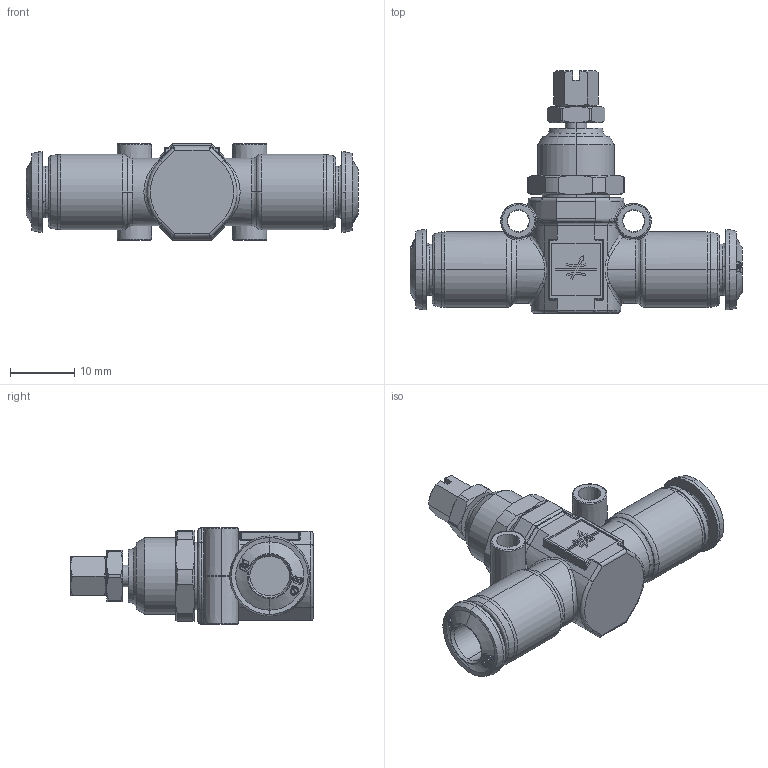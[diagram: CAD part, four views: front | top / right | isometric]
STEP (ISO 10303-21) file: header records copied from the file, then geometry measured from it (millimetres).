
FILE_DESCRIPTION (( 'STEP AP214' ), '1' );
FILE_NAME ('5595500001.STEP', '2013-02-28T14:45:58', ( '' ), ( '' ), 'SwSTEP 2.0', 'SolidWorks 2012', '' );
FILE_SCHEMA (( 'AUTOMOTIVE_DESIGN' ));
Length unit declared in the file: millimetre
Products named in the file (1): 5595500001
Bounding box: 51.8 x 37.86 x 15 mm (x, y, z)
Volume: 8415 mm3; surface area: 4960.9 mm2
Topology: 3 solids, 3 shells, 601 faces, 1465 edges, 878 vertices
Faces by surface type: bspline 238, cone 142, cylinder 115, plane 106
Entity records: 34462 total; most frequent: CARTESIAN_POINT 20620, ORIENTED_EDGE 2884, DIRECTION 1998, EDGE_CURVE 1442, VERTEX_POINT 878, AXIS2_PLACEMENT_3D 763, EDGE_LOOP 638, FACE_OUTER_BOUND 601
